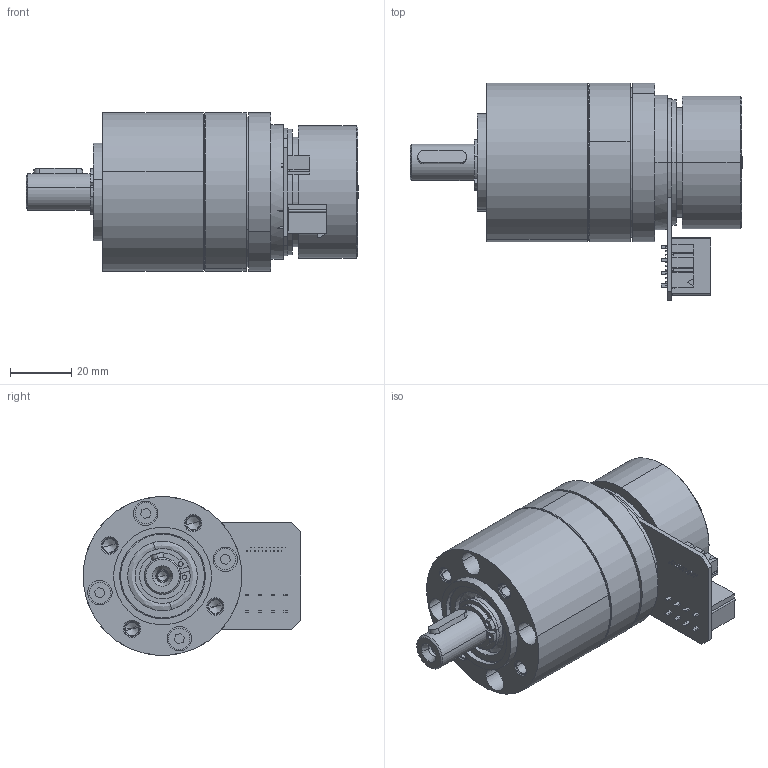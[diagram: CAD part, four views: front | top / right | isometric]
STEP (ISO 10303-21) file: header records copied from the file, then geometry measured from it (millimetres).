
FILE_DESCRIPTION (( 'STEP AP214' ), '1' );
FILE_NAME ('EC45Flat-70W+mile+ PM52-1étage.STEP', '2014-11-18T14:16:28', ( '' ), ( '' ), 'SwSTEP 2.0', 'SolidWorks 2013', '' );
FILE_SCHEMA (( 'AUTOMOTIVE_DESIGN' ));
Length unit declared in the file: millimetre
Products named in the file (21): EC45Flat-70w+mile; 906350101; 039281083; EC45FLAT-70W+mile; PM52 pour EC45Flat-70W_1 etage; EC45Flat-70W+mile+ PM52-1étage; Coté moteur^PM52 pour EC45Flat-70W; D912_M4X10_1; Coté sortie^PM52 pour EC45Flat-70W; SCHRAUBE_1241978_6; 8006405_DICHTRING_2; 4X4X16_D6885A_2; D471_12X1_5_2; 1009221-V1_Part; 8102168_ABTRIEB_LK1_KPL_2; GK2152_POS31_2_LAGERBOLZEN_2; 8101171_ABTRIEB_ROHTEIL_AF0_2; DIN998_PS_12X18X1_2; D625-6001-2RS_2; 8006231_LAGERFLANSCH_2; 8006230_ZAHNKRANZ_Z46_2
Assembly tree (29 placements, depth 5):
  EC45Flat-70W+mile+ PM52-1étage
    EC45Flat-70w+mile
      EC45FLAT-70W+mile
      039281083
      906350101
    PM52 pour EC45Flat-70W_1 etage
      8006230_ZAHNKRANZ_Z46_2
      Coté sortie^PM52 pour EC45Flat-70W
        8006231_LAGERFLANSCH_2
        D625-6001-2RS_2  x2
        DIN998_PS_12X18X1_2  x2
        8102168_ABTRIEB_LK1_KPL_2
          8101171_ABTRIEB_ROHTEIL_AF0_2
          GK2152_POS31_2_LAGERBOLZEN_2  x3
        D471_12X1_5_2
        4X4X16_D6885A_2
        8006405_DICHTRING_2
        SCHRAUBE_1241978_6  x4
      Coté moteur^PM52 pour EC45Flat-70W
        8006405_DICHTRING_2
        D912_M4X10_1  x2
        1009221-V1_Part
Bounding box: 108.7 x 71.3 x 52 mm (x, y, z)
Volume: 85805.3 mm3; surface area: 68995.5 mm2
Topology: 20 solids, 41 shells, 1247 faces, 3140 edges, 2044 vertices
Faces by surface type: plane 759, cylinder 356, cone 80, bspline 52
Entity records: 35048 total; most frequent: CARTESIAN_POINT 6929, DIRECTION 5676, ORIENTED_EDGE 5536, EDGE_CURVE 2782, LINE 2042, VECTOR 2042, VERTEX_POINT 1822, AXIS2_PLACEMENT_3D 1817
